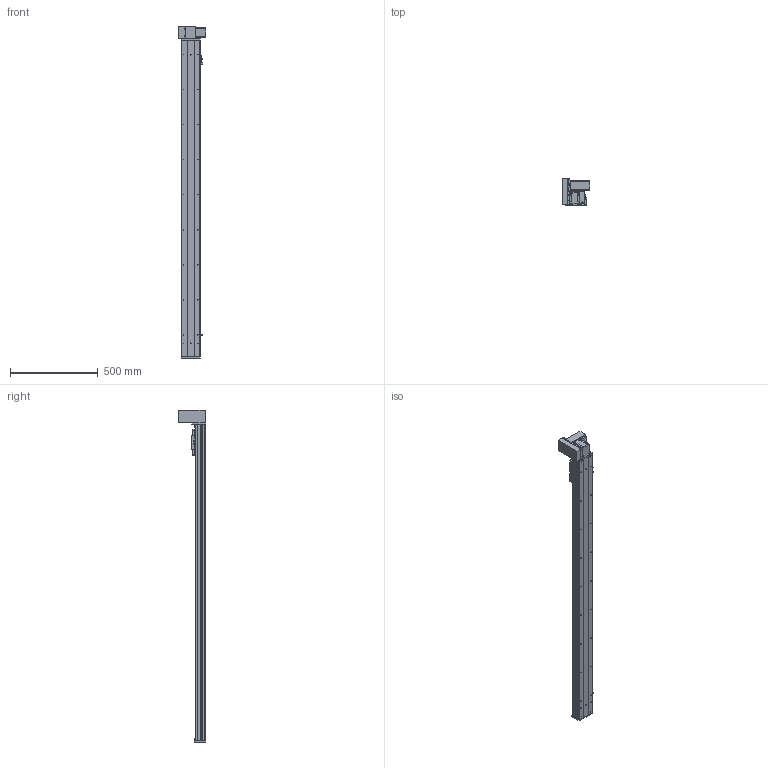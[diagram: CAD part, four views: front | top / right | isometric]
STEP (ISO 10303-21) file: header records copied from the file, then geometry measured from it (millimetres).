
FILE_DESCRIPTION (( 'STEP AP203' ), '1' );
FILE_NAME ('Y10CB-D90-S1550-UL-P400W.STEP', '2020-02-16T07:58:27', ( '微软用户' ), ( '微软中国' ), 'SwSTEP 2.0', 'SolidWorks 2017', '' );
FILE_SCHEMA (( 'CONFIG_CONTROL_DESIGN' ));
Length unit declared in the file: millimetre
Products named in the file (18): 10CB9-掛极; Y10B-々湍喘謫眊楊擘啣--; 10CB-耜裔; 0B-萇儂楊擘啣; Y135C-陔俋离換覜結え-; san松下电机400不带刹车----; Y100-135俋离換覜ん--; 0B-源倛裔啣; Y10B-耜蚾蟀諉啣----; 0B-埴倛裔啣; 00B-俋欶BM--; 10CB-詩湍-; Y10B--々湍喘謫眊--666; Y10CB- 掛极耜裔啣-毀---; 0CB-雄赽釱---; Y10CB-D90-S1550-UL-P400W; Y10C---詩湍揤啣; 0Cb-俋欶---
Assembly tree (21 placements, depth 2):
  Y10CB-D90-S1550-UL-P400W
    0CB-雄赽釱---
    0Cb-俋欶---
    Y10B-々湍喘謫眊楊擘啣--
    0B-萇儂楊擘啣
    san松下电机400不带刹车----
    0B-源倛裔啣
    0B-埴倛裔啣
    10CB-詩湍-
    Y10CB- 掛极耜裔啣-毀---  x2
    Y10C---詩湍揤啣  x2
    10CB9-掛极
    10CB-耜裔
    Y135C-陔俋离換覜結え-
    Y100-135俋离換覜ん--  x3
    Y10B-耜蚾蟀諉啣----
    00B-俋欶BM--
    Y10B--々湍喘謫眊--666
Bounding box: 157 x 155.5 x 1896 mm (x, y, z)
Volume: 4095510.9 mm3; surface area: 1895839.6 mm2
Topology: 21 solids, 21 shells, 1026 faces, 2763 edges, 1802 vertices
Faces by surface type: cylinder 519, plane 483, cone 24
Entity records: 32412 total; most frequent: CARTESIAN_POINT 5913, DIRECTION 5202, ORIENTED_EDGE 4996, EDGE_CURVE 2498, AXIS2_PLACEMENT_3D 1861, VERTEX_POINT 1628, LINE 1480, VECTOR 1480
